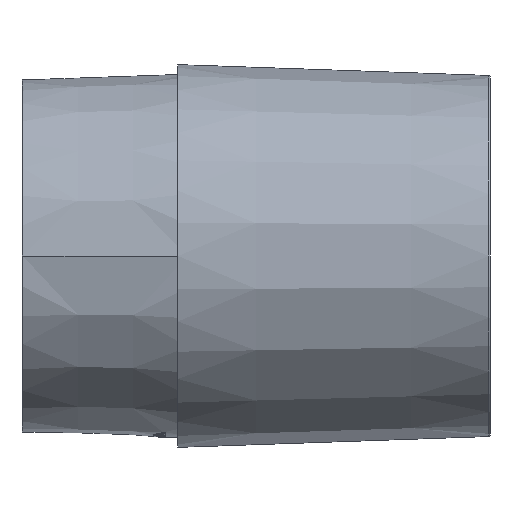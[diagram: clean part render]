
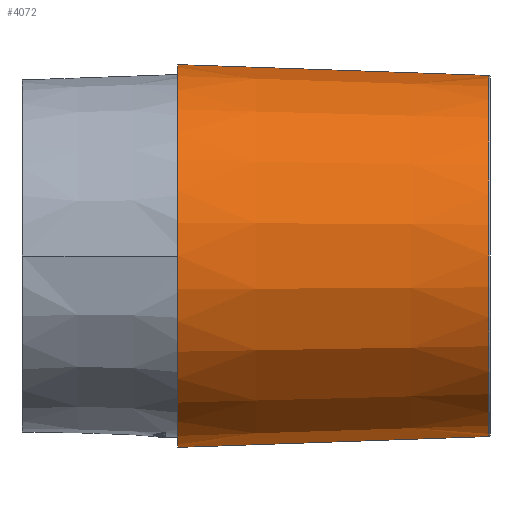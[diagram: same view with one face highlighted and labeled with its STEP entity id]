
A CAD part, left-side view. The second image highlights one B-rep face of the part: STEP entity #4072.
In plain terms, the highlighted conical face has half-angle 2 degrees and reference radius 44.696 mm.
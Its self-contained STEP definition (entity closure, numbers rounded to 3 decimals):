
#3153=CARTESIAN_POINT('',(0.,75.,0.));
#3154=DIRECTION('',(0.,1.,0.));
#3155=DIRECTION('',(0.,0.,-1.));
#3156=AXIS2_PLACEMENT_3D('',#3153,#3154,#3155);
#3216=DIRECTION('',(0.,0.999,0.035));
#3217=VECTOR('',#3216,74.756);
#3218=CARTESIAN_POINT('',(0.,0.29,43.391));
#3219=LINE('',#3218,#3217);
#3220=DIRECTION('',(0.,-0.999,0.035));
#3221=VECTOR('',#3220,74.756);
#3222=CARTESIAN_POINT('',(0.,75.,-46.));
#3223=LINE('',#3222,#3221);
#3380=CARTESIAN_POINT('',(0.,0.29,0.));
#3381=DIRECTION('',(0.,-1.,0.));
#3382=DIRECTION('',(0.,0.,1.));
#3383=AXIS2_PLACEMENT_3D('',#3380,#3381,#3382);
#3915=CARTESIAN_POINT('',(0.,75.,-46.));
#3916=CARTESIAN_POINT('',(0.,75.,46.));
#3917=VERTEX_POINT('',#3915);
#3918=VERTEX_POINT('',#3916);
#3927=CARTESIAN_POINT('',(0.,0.29,
-43.391));
#3928=CARTESIAN_POINT('',(0.,0.29,43.391));
#3929=VERTEX_POINT('',#3927);
#3930=VERTEX_POINT('',#3928);
#4060=CARTESIAN_POINT('',(0.,37.645,0.));
#4061=DIRECTION('',(0.,1.,0.));
#4062=DIRECTION('',(0.,0.,-1.));
#4063=AXIS2_PLACEMENT_3D('',#4060,#4061,#4062);
#4064=CONICAL_SURFACE('',#4063,44.696,2.);
#4066=ORIENTED_EDGE('',*,*,#4065,.T.);
#4067=ORIENTED_EDGE('',*,*,#4049,.F.);
#4068=ORIENTED_EDGE('',*,*,#4022,.T.);
#4069=ORIENTED_EDGE('',*,*,#4046,.F.);
#4070=EDGE_LOOP('',(#4066,#4067,#4068,#4069));
#4071=FACE_OUTER_BOUND('',#4070,.F.);
#4072=ADVANCED_FACE('',(#4071),#4064,.T.);
#3157=CIRCLE('',#3156,46.);
#3384=CIRCLE('',#3383,43.391);
#4022=EDGE_CURVE('',#3917,#3918,#3157,.T.);
#4046=EDGE_CURVE('',#3930,#3918,#3219,.T.);
#4049=EDGE_CURVE('',#3917,#3929,#3223,.T.);
#4065=EDGE_CURVE('',#3930,#3929,#3384,.T.);
